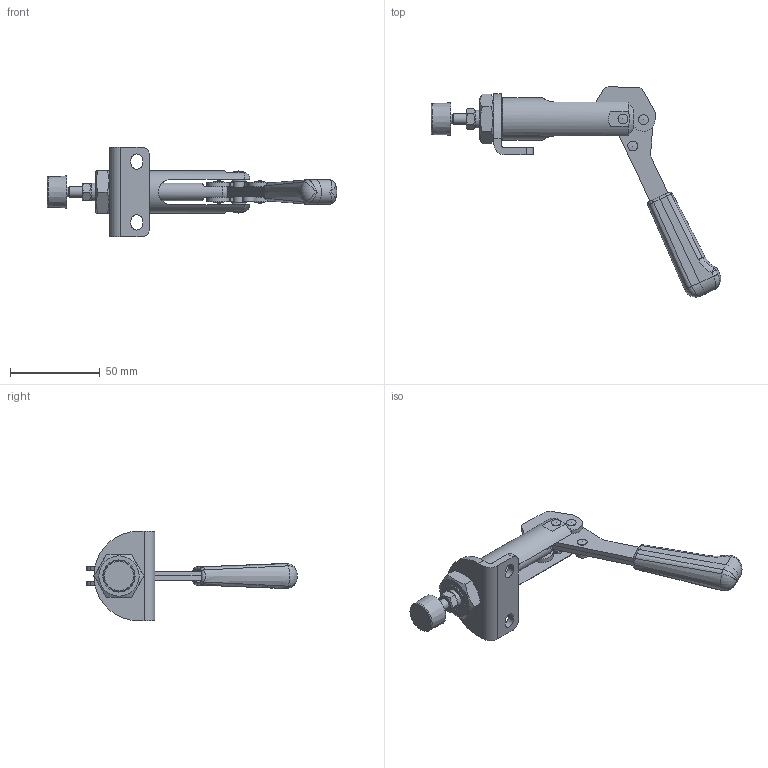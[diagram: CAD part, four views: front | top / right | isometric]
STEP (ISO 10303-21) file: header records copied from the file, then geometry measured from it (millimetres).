
FILE_DESCRIPTION(/* description */ (''),/* implementation_level */ '2;1');
FILE_NAME(/* name */ '/Users/eric/Desktop/Abco 2032 Pull:Tirée.stp',/* time_stamp */ '2014-08-15T01:19:30+10:00',/* author */ (''),/* organization */ (''),/* preprocessor_version */ 'ST-DEVELOPER v14.6',/* originating_system */ '',/* authorisation */ '');
FILE_SCHEMA (('AUTOMOTIVE_DESIGN { 1 2 10303 214 1 1 1 1 }'));
Length unit declared in the file: centimetre
Products named in the file (1): 1234-K789
Bounding box: 161.7 x 117.39 x 50 mm (x, y, z)
Volume: 54229 mm3; surface area: 38499.2 mm2
Topology: 25 solids, 25 shells, 301 faces, 703 edges, 445 vertices
Faces by surface type: plane 125, cylinder 94, cone 41, bspline 24, sphere 9, torus 8
Full cylindrical faces by diameter (mm): 4 x3, 4.917 x2, 5 x19, 5.459 x1, 6 x3, 7 x9, 8 x2, 8.7 x2, 10 x4, 14.376 x1, 16 x1, 16.2 x1, 23.5 x1
Entity records: 8693 total; most frequent: CARTESIAN_POINT 2400, DIRECTION 1286, ORIENTED_EDGE 1170, EDGE_CURVE 585, AXIS2_PLACEMENT_3D 530, EDGE_LOOP 441, VERTEX_POINT 418, ADVANCED_FACE 301
